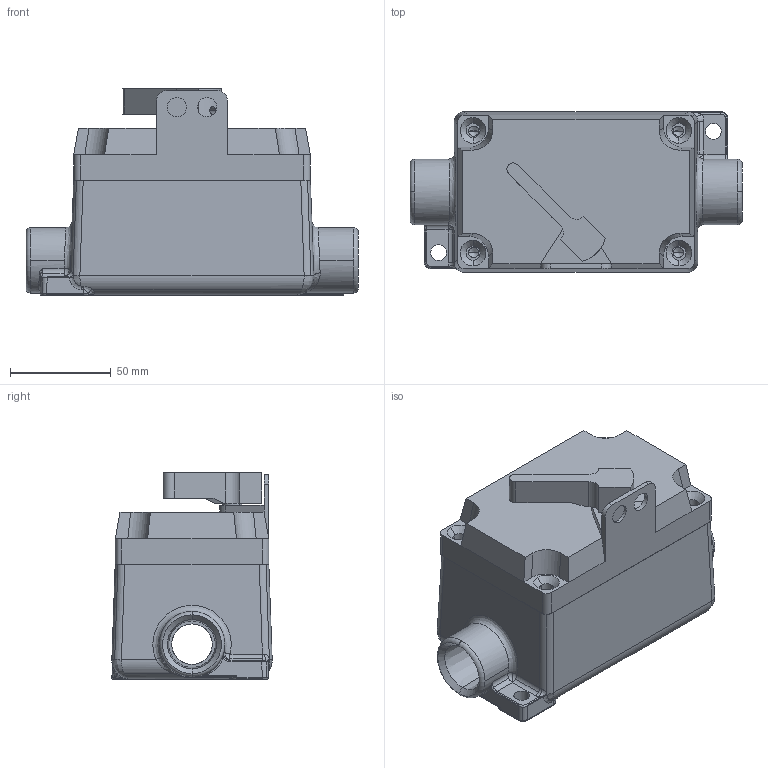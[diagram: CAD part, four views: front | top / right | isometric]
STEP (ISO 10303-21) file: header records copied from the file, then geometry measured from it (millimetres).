
FILE_DESCRIPTION (( 'STEP AP203' ), '1' );
FILE_NAME ('EPSW-20A-0.75IN-FT-3W.STEP', '2025-11-25T20:37:54', ( '' ), ( '' ), 'SwSTEP 2.0', 'SolidWorks 2020', '' );
FILE_SCHEMA (( 'CONFIG_CONTROL_DESIGN' ));
Length unit declared in the file: inch
Products named in the file (8): Switch Pusher; EPS-25A-COVER_EPS-25A-COVER; external tooth lock washer_ai; Handle Bolt_Handle Bolt; KIL_SWB-5 (2).stp; EPS-25A-COVER_EPS-PB10-MS-SB; Switch Handle_Switch Handle; EPSW-20A-0.75IN-FT-3W
Assembly tree (7 placements, depth 3):
  EPSW-20A-0.75IN-FT-3W
    KIL_SWB-5 (2).stp
    EPS-25A-COVER_EPS-25A-COVER
      EPS-25A-COVER_EPS-PB10-MS-SB
      Handle Bolt_Handle Bolt
      Switch Handle_Switch Handle
      Switch Pusher
      external tooth lock washer_ai
Bounding box: 164.88 x 79.62 x 102.7 mm (x, y, z)
Volume: 354251.4 mm3; surface area: 112300.3 mm2
Topology: 6 solids, 6 shells, 1364 faces, 3635 edges, 2334 vertices
Faces by surface type: plane 590, bspline 420, cylinder 250, torus 38, sphere 36, cone 30
Entity records: 48093 total; most frequent: CARTESIAN_POINT 16394, ORIENTED_EDGE 7198, DIRECTION 4963, EDGE_CURVE 3599, VERTEX_POINT 2331, VECTOR 2073, LINE 2073, EDGE_LOOP 1478
